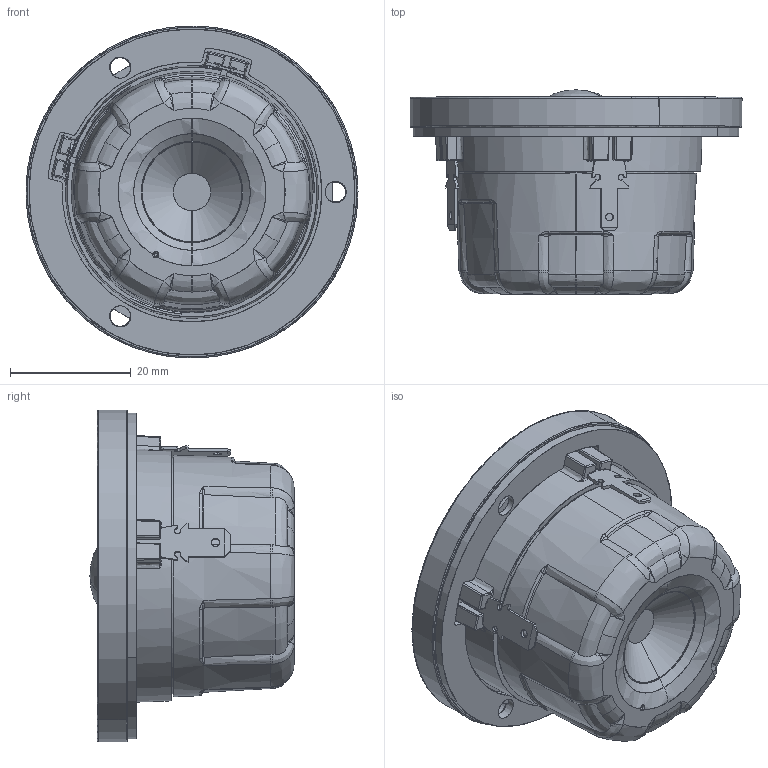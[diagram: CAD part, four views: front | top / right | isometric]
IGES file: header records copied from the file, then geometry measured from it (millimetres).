
Start section: SolidWorks IGES file using analytic representation for surfaces
Global section: file name: W:\TT\WEB 3D ENHEDER VER2\D2004_602200\D2004-602200.IGS; native system: SolidWorks 2024; preprocessor: SolidWorks 2024; author: jsn; date: 240103.141754; units: millimetre
Bounding box: 55 x 33.8 x 55 mm (x, y, z)
Surface area: 11241.4 mm2 (no closed solid volume)
Topology: 0 solids, 0 shells, 536 faces, 5751 edges, 5724 vertices
Faces by surface type: bspline 344, revolution 192
